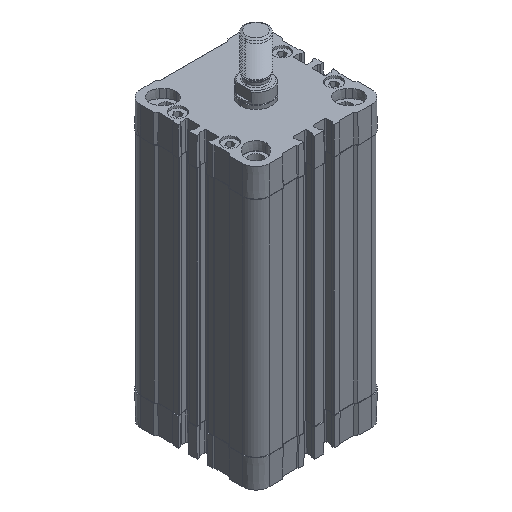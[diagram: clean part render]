
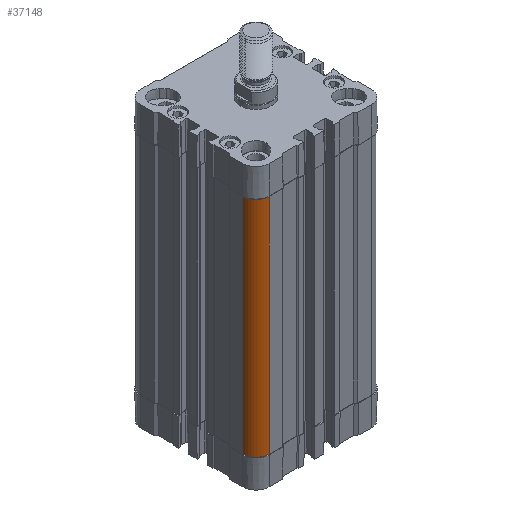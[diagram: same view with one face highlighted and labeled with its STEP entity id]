
A CAD part, isometric view. The second image highlights one B-rep face of the part: STEP entity #37148.
In plain terms, the highlighted cylindrical face has radius 6.8 mm (diameter 13.6 mm), a partial arc.
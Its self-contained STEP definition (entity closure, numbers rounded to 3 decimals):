
#17431 = CARTESIAN_POINT ( 'NONE',  ( -26.4, -26.4, -115.8 ) ) ;
#17461 = CARTESIAN_POINT ( 'NONE',  ( -26.4, -33.2, -115.8 ) ) ;
#17462 = LINE ( 'NONE', #17461, #17524 ) ;
#17464 = CARTESIAN_POINT ( 'NONE',  ( -26.4, -33.2, 0. ) ) ;
#17487 = DIRECTION ( 'NONE',  ( -1., 0., 0. ) ) ;
#17488 = DIRECTION ( 'NONE',  ( 0., 0., 1. ) ) ;
#17489 = AXIS2_PLACEMENT_3D ( 'NONE', #17431, #17488, #17487 ) ;
#17490 = CIRCLE ( 'NONE', #17489, 6.8 ) ;
#17506 = CARTESIAN_POINT ( 'NONE',  ( -33.2, -26.4, 0. ) ) ;
#17507 = DIRECTION ( 'NONE',  ( -1., 0., 0. ) ) ;
#17508 = DIRECTION ( 'NONE',  ( 0., 0., 1. ) ) ;
#17509 = CARTESIAN_POINT ( 'NONE',  ( -26.4, -26.4, 0. ) ) ;
#17510 = AXIS2_PLACEMENT_3D ( 'NONE', #17509, #17508, #17507 ) ;
#17511 = DIRECTION ( 'NONE',  ( 1., 0., 0. ) ) ;
#17512 = DIRECTION ( 'NONE',  ( 0., 0., 1. ) ) ;
#17513 = AXIS2_PLACEMENT_3D ( 'NONE', #17515, #17512, #17511 ) ;
#17514 = CIRCLE ( 'NONE', #17510, 6.8 ) ;
#17515 = CARTESIAN_POINT ( 'NONE',  ( -26.4, -26.4, -115.8 ) ) ;
#17516 = CYLINDRICAL_SURFACE ( 'NONE', #17513, 6.8 ) ;
#17517 = FACE_OUTER_BOUND ( 'NONE', #37149, .T. ) ;
#17522 = CARTESIAN_POINT ( 'NONE',  ( -26.4, -33.2, -115.8 ) ) ;
#17523 = DIRECTION ( 'NONE',  ( 0., 0., 1. ) ) ;
#17524 = VECTOR ( 'NONE', #17523, 1000. ) ;
#17652 = DIRECTION ( 'NONE',  ( 0., 0., 1. ) ) ;
#17653 = VECTOR ( 'NONE', #17652, 1000. ) ;
#17654 = CARTESIAN_POINT ( 'NONE',  ( -33.2, -26.4, -115.8 ) ) ;
#17655 = LINE ( 'NONE', #17654, #17653 ) ;
#25046 = CARTESIAN_POINT ( 'NONE',  ( -33.2, -26.4, -115.8 ) ) ;
#37126 = EDGE_CURVE ( 'NONE', #40992, #37144, #17490, .T. ) ;
#37127 = ORIENTED_EDGE ( 'NONE', *, *, #37143, .T. ) ;
#37140 = VERTEX_POINT ( 'NONE', #17464 ) ;
#37143 = EDGE_CURVE ( 'NONE', #37144, #37140, #17462, .T. ) ;
#37144 = VERTEX_POINT ( 'NONE', #17522 ) ;
#37148 = ADVANCED_FACE ( 'NONE', ( #17517 ), #17516, .T. ) ;
#37149 = EDGE_LOOP ( 'NONE', ( #37150, #37212, #40982, #37127 ) ) ;
#37150 = ORIENTED_EDGE ( 'NONE', *, *, #37151, .F. ) ;
#37151 = EDGE_CURVE ( 'NONE', #37152, #37140, #17514, .T. ) ;
#37152 = VERTEX_POINT ( 'NONE', #17506 ) ;
#37212 = ORIENTED_EDGE ( 'NONE', *, *, #37213, .F. ) ;
#37213 = EDGE_CURVE ( 'NONE', #40992, #37152, #17655, .T. ) ;
#40982 = ORIENTED_EDGE ( 'NONE', *, *, #37126, .T. ) ;
#40992 = VERTEX_POINT ( 'NONE', #25046 ) ;
